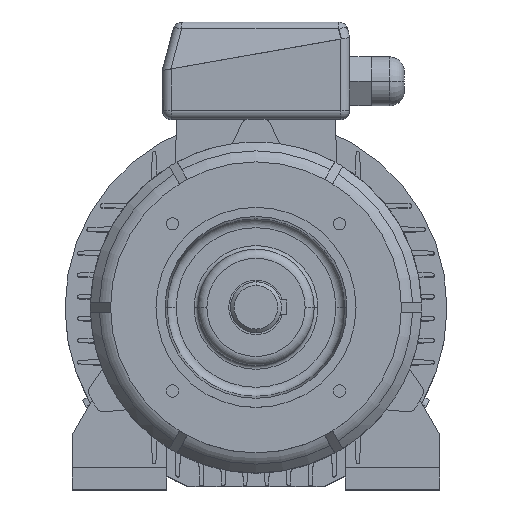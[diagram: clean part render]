
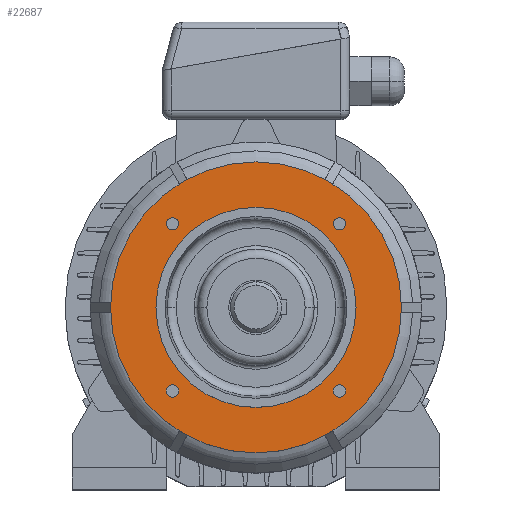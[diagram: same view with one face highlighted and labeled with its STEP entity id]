
A CAD part, top view. The second image highlights one B-rep face of the part: STEP entity #22687.
In plain terms, the highlighted planar face has unit normal (0, 0, 1).
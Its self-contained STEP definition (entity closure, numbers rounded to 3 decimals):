
#126 = CARTESIAN_POINT ( 'NONE',  ( -49.362, -45.962, 45. ) ) ;
#16590 = CIRCLE ( 'NONE', #16591, 3.4 ) ;
#16591 = AXIS2_PLACEMENT_3D ( 'NONE', #16592, #16617, #16618 ) ;
#16592 = CARTESIAN_POINT ( 'NONE',  ( 45.962, 45.962, 45. ) ) ;
#16617 = DIRECTION ( 'NONE',  ( 0., 0., 1. ) ) ;
#16618 = DIRECTION ( 'NONE',  ( 1., 0., 0. ) ) ;
#279 = ORIENTED_EDGE ( 'NONE', *, *, #27476, .F. ) ;
#16825 = CARTESIAN_POINT ( 'NONE',  ( -80., 0., 45. ) ) ;
#934 = VERTEX_POINT ( 'NONE', #10303 ) ;
#935 = EDGE_LOOP ( 'NONE', ( #279, #26596 ) ) ;
#1248 = ORIENTED_EDGE ( 'NONE', *, *, #6105, .F. ) ;
#1928 = EDGE_CURVE ( 'NONE', #5823, #7241, #12492, .T. ) ;
#2392 = ORIENTED_EDGE ( 'NONE', *, *, #1928, .F. ) ;
#18786 = CIRCLE ( 'NONE', #18787, 55. ) ;
#18787 = AXIS2_PLACEMENT_3D ( 'NONE', #18788, #18789, #18790 ) ;
#18788 = CARTESIAN_POINT ( 'NONE',  ( 0., 0., 45. ) ) ;
#18789 = DIRECTION ( 'NONE',  ( 0., 0., -1. ) ) ;
#18790 = DIRECTION ( 'NONE',  ( -1., 0., 0. ) ) ;
#2600 = VERTEX_POINT ( 'NONE', #14069 ) ;
#2658 = VERTEX_POINT ( 'NONE', #14189 ) ;
#19186 = CARTESIAN_POINT ( 'NONE',  ( -42.562, 45.962, 45. ) ) ;
#19240 = VERTEX_POINT ( 'NONE', #3853 ) ;
#3066 = EDGE_LOOP ( 'NONE', ( #2392, #1248 ) ) ;
#19575 = CIRCLE ( 'NONE', #19576, 3.4 ) ;
#19576 = AXIS2_PLACEMENT_3D ( 'NONE', #19581, #19582, #19583 ) ;
#19581 = CARTESIAN_POINT ( 'NONE',  ( -45.962, 45.962, 45. ) ) ;
#19582 = DIRECTION ( 'NONE',  ( 0., 0., 1. ) ) ;
#19583 = DIRECTION ( 'NONE',  ( 1., 0., 0. ) ) ;
#3360 = ORIENTED_EDGE ( 'NONE', *, *, #24503, .F. ) ;
#3853 = CARTESIAN_POINT ( 'NONE',  ( 80., 0., 45. ) ) ;
#20263 = VERTEX_POINT ( 'NONE', #4773 ) ;
#20283 = EDGE_LOOP ( 'NONE', ( #4019, #3360 ) ) ;
#20284 = CIRCLE ( 'NONE', #20285, 80. ) ;
#20285 = AXIS2_PLACEMENT_3D ( 'NONE', #20286, #20287, #20288 ) ;
#20286 = CARTESIAN_POINT ( 'NONE',  ( 0., 0., 45. ) ) ;
#20287 = DIRECTION ( 'NONE',  ( 0., 0., -1. ) ) ;
#20288 = DIRECTION ( 'NONE',  ( -1., 0., 0. ) ) ;
#4019 = ORIENTED_EDGE ( 'NONE', *, *, #6934, .F. ) ;
#20529 = EDGE_CURVE ( 'NONE', #21887, #20263, #5060, .T. ) ;
#20584 = EDGE_CURVE ( 'NONE', #934, #2600, #5124, .T. ) ;
#20695 = CARTESIAN_POINT ( 'NONE',  ( -49.362, 45.962, 45. ) ) ;
#21033 = CIRCLE ( 'NONE', #21034, 3.4 ) ;
#21034 = AXIS2_PLACEMENT_3D ( 'NONE', #21035, #21036, #21037 ) ;
#21035 = CARTESIAN_POINT ( 'NONE',  ( -45.962, -45.962, 45. ) ) ;
#21036 = DIRECTION ( 'NONE',  ( 0., 0., 1. ) ) ;
#21037 = DIRECTION ( 'NONE',  ( 1., 0., 0. ) ) ;
#21071 = ORIENTED_EDGE ( 'NONE', *, *, #20584, .T. ) ;
#4773 = CARTESIAN_POINT ( 'NONE',  ( 49.362, -45.962, 45. ) ) ;
#5060 = CIRCLE ( 'NONE', #5061, 3.4 ) ;
#5061 = AXIS2_PLACEMENT_3D ( 'NONE', #5062, #5063, #5064 ) ;
#5062 = CARTESIAN_POINT ( 'NONE',  ( 45.962, -45.962, 45. ) ) ;
#5063 = DIRECTION ( 'NONE',  ( 0., 0., 1. ) ) ;
#5064 = DIRECTION ( 'NONE',  ( 1., 0., 0. ) ) ;
#5124 = CIRCLE ( 'NONE', #5125, 55. ) ;
#5125 = AXIS2_PLACEMENT_3D ( 'NONE', #5126, #5127, #5137 ) ;
#5126 = CARTESIAN_POINT ( 'NONE',  ( 0., 0., 45. ) ) ;
#5127 = DIRECTION ( 'NONE',  ( 0., 0., -1. ) ) ;
#5137 = DIRECTION ( 'NONE',  ( -1., 0., 0. ) ) ;
#21730 = ORIENTED_EDGE ( 'NONE', *, *, #5421, .T. ) ;
#5421 = EDGE_CURVE ( 'NONE', #2600, #934, #18786, .T. ) ;
#21887 = VERTEX_POINT ( 'NONE', #6994 ) ;
#5823 = VERTEX_POINT ( 'NONE', #19186 ) ;
#22389 = EDGE_LOOP ( 'NONE', ( #21730, #21071 ) ) ;
#6105 = EDGE_CURVE ( 'NONE', #7241, #5823, #19575, .T. ) ;
#22687 = ADVANCED_FACE ( 'NONE', ( #8005, #8006, #8007, #8008, #8009, #8010 ), #8011, .T. ) ;
#6844 = ORIENTED_EDGE ( 'NONE', *, *, #13858, .F. ) ;
#6934 = EDGE_CURVE ( 'NONE', #27581, #19240, #20284, .T. ) ;
#6994 = CARTESIAN_POINT ( 'NONE',  ( 42.562, -45.962, 45. ) ) ;
#7241 = VERTEX_POINT ( 'NONE', #20695 ) ;
#7510 = EDGE_CURVE ( 'NONE', #13386, #15756, #21033, .T. ) ;
#23927 = CIRCLE ( 'NONE', #23928, 3.4 ) ;
#23928 = AXIS2_PLACEMENT_3D ( 'NONE', #23929, #23930, #23931 ) ;
#23929 = CARTESIAN_POINT ( 'NONE',  ( 45.962, -45.962, 45. ) ) ;
#23930 = DIRECTION ( 'NONE',  ( 0., 0., 1. ) ) ;
#23931 = DIRECTION ( 'NONE',  ( 1., 0., 0. ) ) ;
#7976 = ORIENTED_EDGE ( 'NONE', *, *, #7510, .F. ) ;
#8005 = FACE_BOUND ( 'NONE', #22389, .T. ) ;
#8006 = FACE_OUTER_BOUND ( 'NONE', #20283, .T. ) ;
#8007 = FACE_BOUND ( 'NONE', #3066, .T. ) ;
#8008 = FACE_BOUND ( 'NONE', #935, .T. ) ;
#8009 = FACE_BOUND ( 'NONE', #26279, .T. ) ;
#8010 = FACE_BOUND ( 'NONE', #8634, .T. ) ;
#8011 = PLANE ( 'NONE',  #8012 ) ;
#8012 = AXIS2_PLACEMENT_3D ( 'NONE', #8013, #8014, #8015 ) ;
#8013 = CARTESIAN_POINT ( 'NONE',  ( -80., 0., 45. ) ) ;
#8014 = DIRECTION ( 'NONE',  ( 0., 0., 1. ) ) ;
#8015 = DIRECTION ( 'NONE',  ( 1., 0., 0. ) ) ;
#24503 = EDGE_CURVE ( 'NONE', #19240, #27581, #10952, .T. ) ;
#8634 = EDGE_LOOP ( 'NONE', ( #7976, #6844 ) ) ;
#25337 = CIRCLE ( 'NONE', #25338, 3.4 ) ;
#25338 = AXIS2_PLACEMENT_3D ( 'NONE', #25339, #25340, #25341 ) ;
#25339 = CARTESIAN_POINT ( 'NONE',  ( 45.962, 45.962, 45. ) ) ;
#25340 = DIRECTION ( 'NONE',  ( 0., 0., 1. ) ) ;
#25341 = DIRECTION ( 'NONE',  ( 1., 0., 0. ) ) ;
#9113 = ORIENTED_EDGE ( 'NONE', *, *, #20529, .F. ) ;
#26242 = CARTESIAN_POINT ( 'NONE',  ( -42.562, -45.962, 45. ) ) ;
#26279 = EDGE_LOOP ( 'NONE', ( #11004, #9113 ) ) ;
#26575 = CARTESIAN_POINT ( 'NONE',  ( 42.562, 45.962, 45. ) ) ;
#26576 = CIRCLE ( 'NONE', #26577, 3.4 ) ;
#26577 = AXIS2_PLACEMENT_3D ( 'NONE', #26578, #26579, #26580 ) ;
#26578 = CARTESIAN_POINT ( 'NONE',  ( -45.962, -45.962, 45. ) ) ;
#26579 = DIRECTION ( 'NONE',  ( 0., 0., 1. ) ) ;
#26580 = DIRECTION ( 'NONE',  ( 1., 0., 0. ) ) ;
#10214 = EDGE_CURVE ( 'NONE', #20263, #21887, #23927, .T. ) ;
#26596 = ORIENTED_EDGE ( 'NONE', *, *, #11958, .F. ) ;
#10303 = CARTESIAN_POINT ( 'NONE',  ( 55., 0., 45. ) ) ;
#10952 = CIRCLE ( 'NONE', #10953, 80. ) ;
#10953 = AXIS2_PLACEMENT_3D ( 'NONE', #10954, #10955, #10956 ) ;
#10954 = CARTESIAN_POINT ( 'NONE',  ( 0., 0., 45. ) ) ;
#10955 = DIRECTION ( 'NONE',  ( 0., 0., -1. ) ) ;
#10956 = DIRECTION ( 'NONE',  ( -1., 0., 0. ) ) ;
#11004 = ORIENTED_EDGE ( 'NONE', *, *, #10214, .F. ) ;
#27476 = EDGE_CURVE ( 'NONE', #2658, #13857, #16590, .T. ) ;
#27581 = VERTEX_POINT ( 'NONE', #16825 ) ;
#11958 = EDGE_CURVE ( 'NONE', #13857, #2658, #25337, .T. ) ;
#12492 = CIRCLE ( 'NONE', #12493, 3.4 ) ;
#12493 = AXIS2_PLACEMENT_3D ( 'NONE', #12494, #12515, #12516 ) ;
#12494 = CARTESIAN_POINT ( 'NONE',  ( -45.962, 45.962, 45. ) ) ;
#12515 = DIRECTION ( 'NONE',  ( 0., 0., 1. ) ) ;
#12516 = DIRECTION ( 'NONE',  ( 1., 0., 0. ) ) ;
#13386 = VERTEX_POINT ( 'NONE', #26242 ) ;
#13857 = VERTEX_POINT ( 'NONE', #26575 ) ;
#13858 = EDGE_CURVE ( 'NONE', #15756, #13386, #26576, .T. ) ;
#14069 = CARTESIAN_POINT ( 'NONE',  ( -55., 0., 45. ) ) ;
#14189 = CARTESIAN_POINT ( 'NONE',  ( 49.362, 45.962, 45. ) ) ;
#15756 = VERTEX_POINT ( 'NONE', #126 ) ;
